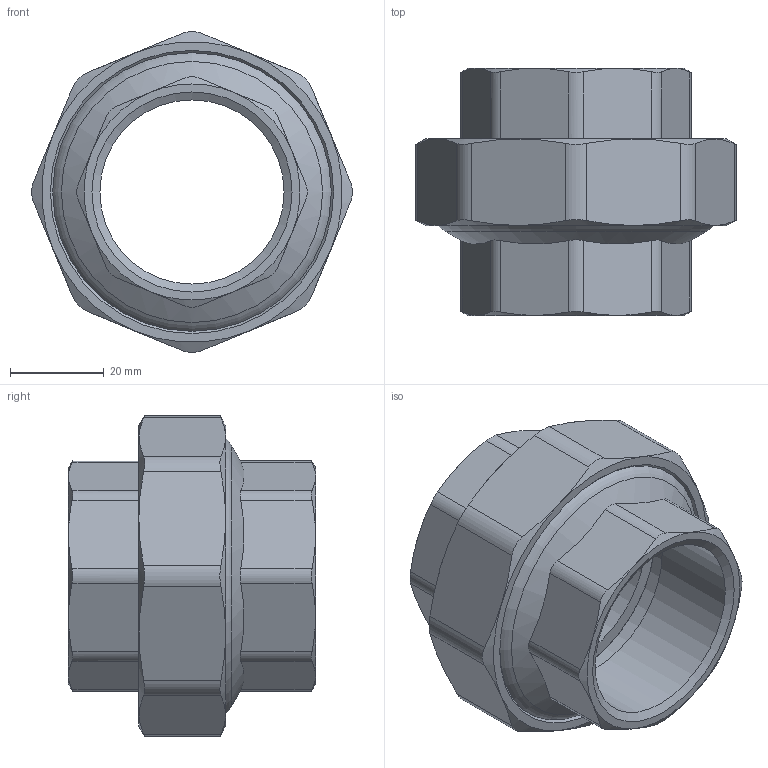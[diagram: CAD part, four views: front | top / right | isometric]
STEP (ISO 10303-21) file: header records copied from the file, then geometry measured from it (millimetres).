
FILE_DESCRIPTION(('STEP AP203'), '1');
FILE_NAME('覆.302612.010.000 捘 - VTr.340.N.0007', '2024-06-28T06:35:26', ('Boss'), (''), 'C3D Converter', 'C3D Toolkit', '');
FILE_SCHEMA(('CONFIG_CONTROL_DESIGN'));
Length unit declared in the file: millimetre
Products named in the file (1): ВР.302612.010.000 СБ
Bounding box: 68.28 x 52.64 x 68.28 mm (x, y, z)
Volume: 55797.6 mm3; surface area: 25044.7 mm2
Topology: 1 solids, 3 shells, 216 faces, 585 edges, 380 vertices
Faces by surface type: plane 83, extrusion 71, cylinder 31, cone 26, torus 5
Full cylindrical faces by diameter (mm): 39.2 x2, 44.8 x1, 49.5 x1, 51.5 x1, 55 x1, 57.4 x1
Entity records: 9653 total; most frequent: CARTESIAN_POINT 4857, ORIENTED_EDGE 1080, DIRECTION 714, EDGE_CURVE 540, VERTEX_POINT 368, VECTOR 318, B_SPLINE_CURVE_WITH_KNOTS 308, EDGE_LOOP 252
